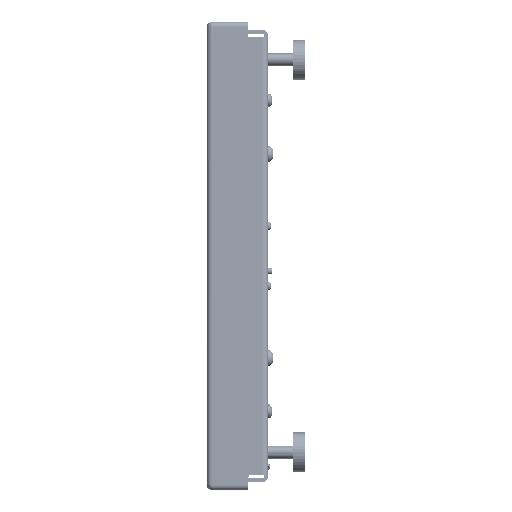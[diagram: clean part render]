
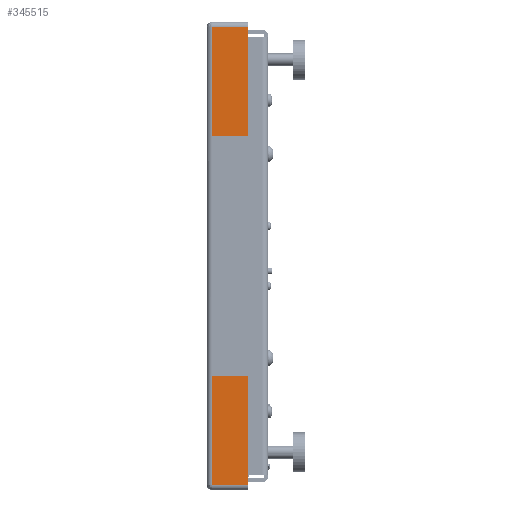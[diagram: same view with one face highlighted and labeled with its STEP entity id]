
A CAD part, left-side view. The second image highlights one B-rep face of the part: STEP entity #345515.
In plain terms, the highlighted planar face has unit normal (-1, 0, 0).
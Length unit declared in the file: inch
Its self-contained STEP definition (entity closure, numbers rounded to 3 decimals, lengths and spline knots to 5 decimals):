
#13729 = CARTESIAN_POINT ( 'NONE',  ( -5.86998, 0.032, -5.73814 ) ) ;
#19023 = LINE ( 'NONE', #80091, #85822 ) ;
#28562 = CARTESIAN_POINT ( 'NONE',  ( -5.86998, 0., 5.73814 ) ) ;
#29570 = CARTESIAN_POINT ( 'NONE',  ( -5.86998, 0.032, 5.73814 ) ) ;
#30680 = LINE ( 'NONE', #362022, #197092 ) ;
#35303 = CARTESIAN_POINT ( 'NONE',  ( -5.86998, 0.946, 5.73814 ) ) ;
#37421 = CARTESIAN_POINT ( 'NONE',  ( -5.86998, 0., 0. ) ) ;
#45425 = DIRECTION ( 'NONE',  ( 0., 1., 0. ) ) ;
#71623 = CARTESIAN_POINT ( 'NONE',  ( -5.86998, 0.946, -5.73814 ) ) ;
#77729 = ORIENTED_EDGE ( 'NONE', *, *, #265011, .T. ) ;
#80091 = CARTESIAN_POINT ( 'NONE',  ( -5.86998, 0., -5.73814 ) ) ;
#85822 = VECTOR ( 'NONE', #292695, 39.37008 ) ;
#96199 = AXIS2_PLACEMENT_3D ( 'NONE', #37421, #379104, #45425 ) ;
#98919 = VECTOR ( 'NONE', #359578, 39.37008 ) ;
#101740 = VERTEX_POINT ( 'NONE', #35303 ) ;
#113988 = EDGE_CURVE ( 'NONE', #194498, #188947, #30680, .T. ) ;
#115485 = LINE ( 'NONE', #186381, #391311 ) ;
#127972 = DIRECTION ( 'NONE',  ( 0., 0., -1. ) ) ;
#140280 = VERTEX_POINT ( 'NONE', #71623 ) ;
#140607 = EDGE_LOOP ( 'NONE', ( #146559, #389293, #77729, #354801 ) ) ;
#146559 = ORIENTED_EDGE ( 'NONE', *, *, #113988, .F. ) ;
#148263 = FACE_OUTER_BOUND ( 'NONE', #140607, .T. ) ;
#157620 = EDGE_CURVE ( 'NONE', #194498, #101740, #179708, .T. ) ;
#179708 = LINE ( 'NONE', #28562, #98919 ) ;
#186381 = CARTESIAN_POINT ( 'NONE',  ( -5.86998, 0.946, 0. ) ) ;
#188947 = VERTEX_POINT ( 'NONE', #13729 ) ;
#194498 = VERTEX_POINT ( 'NONE', #29570 ) ;
#197092 = VECTOR ( 'NONE', #243745, 39.37008 ) ;
#243745 = DIRECTION ( 'NONE',  ( 0., 0., -1. ) ) ;
#265011 = EDGE_CURVE ( 'NONE', #101740, #140280, #115485, .T. ) ;
#292695 = DIRECTION ( 'NONE',  ( 0., 1., 0. ) ) ;
#310127 = PLANE ( 'NONE',  #96199 ) ;
#345515 = ADVANCED_FACE ( 'NONE', ( #148263 ), #310127, .F. ) ;
#354801 = ORIENTED_EDGE ( 'NONE', *, *, #372010, .F. ) ;
#359578 = DIRECTION ( 'NONE',  ( 0., 1., 0. ) ) ;
#362022 = CARTESIAN_POINT ( 'NONE',  ( -5.86998, 0.032, -5.86998 ) ) ;
#372010 = EDGE_CURVE ( 'NONE', #188947, #140280, #19023, .T. ) ;
#379104 = DIRECTION ( 'NONE',  ( 1., 0., 0. ) ) ;
#389293 = ORIENTED_EDGE ( 'NONE', *, *, #157620, .T. ) ;
#391311 = VECTOR ( 'NONE', #127972, 39.37008 ) ;
